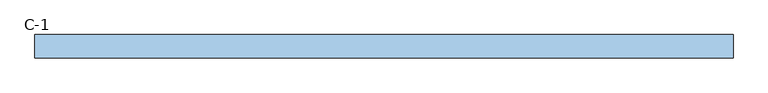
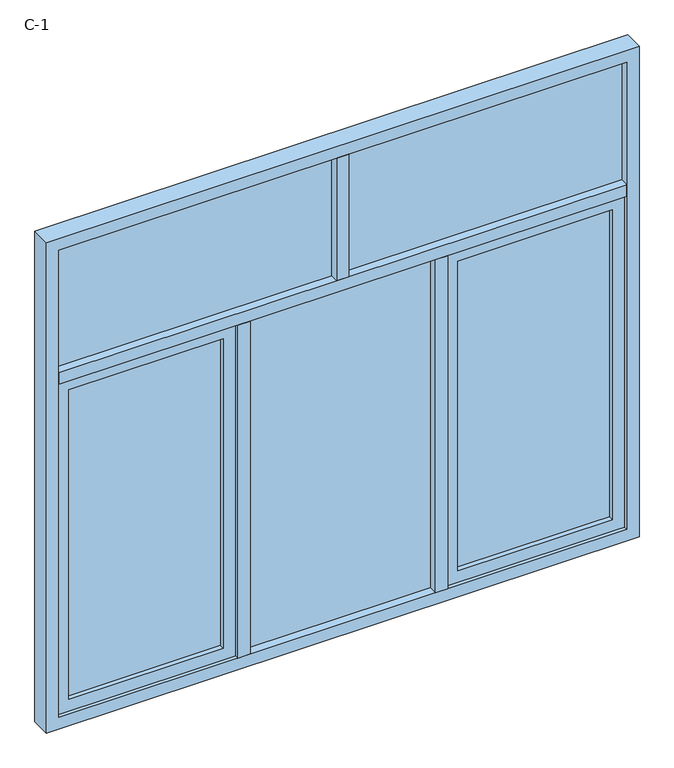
"""IFC4 building model written with IfcOpenShell, lengths in millimetres: window geometry, 组合窗 - 双层三列(平开+固定+平开) - 上部双扇 : C-1."""

from ifc_helpers import new_model, si_unit, frame, origin, place, context, project, spatial, polyline, outline, extrude, source, transform, mapped, element, save


def c_1_d84b719d(model_context):
    return source(origin(), model_context, "Body", "SweptSolid", [
        extrude(outline(polyline([(-25.0, 10.0), (-1150.0, 10.0), (-1150.0, 20.0), (-25.0, 20.0), (-25.0, 10.0)])), frame((0.0, 0.0, 2425.0), z_axis=(0.0, 0.0, 1.0), x_axis=(1.0, 0.0, 0.0)), (0.0, 0.0, 1.0), 525.0),
        extrude(outline(polyline([(375.0, 10.0), (-375.0, 10.0), (-375.0, 20.0), (375.0, 20.0), (375.0, 10.0)])), frame((0.0, 0.0, 950.0), z_axis=(0.0, 0.0, 1.0), x_axis=(1.0, 0.0, 0.0)), (0.0, 0.0, 1.0), 1425.0),
        extrude(outline(polyline([(1150.0, 10.0), (25.0, 10.0), (25.0, 20.0), (1150.0, 20.0), (1150.0, 10.0)])), frame((0.0, 0.0, 2425.0), z_axis=(0.0, 0.0, 1.0), x_axis=(1.0, 0.0, 0.0)), (0.0, 0.0, 1.0), 525.0),
        extrude(outline(polyline([(-475.0, 10.0), (-1100.0, 10.0), (-1100.0, 20.0), (-475.0, 20.0), (-475.0, 10.0)])), frame((0.0, 0.0, 1000.0), z_axis=(0.0, 0.0, 1.0), x_axis=(1.0, 0.0, 0.0)), (0.0, 0.0, 1.0), 1325.0),
        extrude(outline(polyline([(2375.0, -425.0), (2375.0, -1150.0), (950.0, -1150.0), (950.0, -425.0), (2375.0, -425.0)]), holes=[polyline([(1000.0, -475.0), (1000.0, -1100.0), (2325.0, -1100.0), (2325.0, -475.0), (1000.0, -475.0)])]), frame((0.0, -10.0, 0.0), z_axis=(0.0, 1.0, 0.0), x_axis=(0.0, 0.0, 1.0)), (0.0, 0.0, 1.0), 50.0),
        extrude(outline(polyline([(1100.0, 10.0), (475.0, 10.0), (475.0, 20.0), (1100.0, 20.0), (1100.0, 10.0)])), frame((0.0, 0.0, 1000.0), z_axis=(0.0, 0.0, 1.0), x_axis=(1.0, 0.0, 0.0)), (0.0, 0.0, 1.0), 1325.0),
        extrude(outline(polyline([(2375.0, 1150.0), (2375.0, 425.0), (950.0, 425.0), (950.0, 1150.0), (2375.0, 1150.0)]), holes=[polyline([(1000.0, 1100.0), (1000.0, 475.0), (2325.0, 475.0), (2325.0, 1100.0), (1000.0, 1100.0)])]), frame((0.0, -10.0, 0.0), z_axis=(0.0, 1.0, 0.0), x_axis=(0.0, 0.0, 1.0)), (0.0, 0.0, 1.0), 50.0),
        extrude(outline(polyline([(-25.0, 55.0), (25.0, 55.0), (25.0, -25.0), (-25.0, -25.0), (-25.0, 55.0)])), frame((0.0, 0.0, 2425.0), z_axis=(0.0, 0.0, 1.0), x_axis=(1.0, 0.0, 0.0)), (0.0, 0.0, 1.0), 525.0),
        extrude(outline(polyline([(375.0, 55.0), (425.0, 55.0), (425.0, -25.0), (375.0, -25.0), (375.0, 55.0)])), frame((0.0, 0.0, 950.0), z_axis=(0.0, 0.0, 1.0), x_axis=(1.0, 0.0, 0.0)), (0.0, 0.0, 1.0), 1425.0),
        extrude(outline(polyline([(-425.0, 55.0), (-375.0, 55.0), (-375.0, -25.0), (-425.0, -25.0), (-425.0, 55.0)])), frame((0.0, 0.0, 950.0), z_axis=(0.0, 0.0, 1.0), x_axis=(1.0, 0.0, 0.0)), (0.0, 0.0, 1.0), 1425.0),
        extrude(outline(polyline([(-1150.0, 55.0), (1150.0, 55.0), (1150.0, -25.0), (-1150.0, -25.0), (-1150.0, 55.0)])), frame((0.0, 0.0, 2375.0), z_axis=(0.0, 0.0, 1.0), x_axis=(1.0, 0.0, 0.0)), (0.0, 0.0, 1.0), 50.0),
        extrude(outline(polyline([(3000.0, -1200.0), (900.0, -1200.0), (900.0, 1200.0), (3000.0, 1200.0), (3000.0, -1200.0)]), holes=[polyline([(2950.0, 1150.0), (950.0, 1150.0), (950.0, -1150.0), (2950.0, -1150.0), (2950.0, 1150.0)])]), frame((0.0, -25.0, 0.0), z_axis=(0.0, 1.0, 0.0), x_axis=(0.0, 0.0, 1.0)), (0.0, 0.0, 1.0), 80.0),
    ])


if __name__ == "__main__":
    model = new_model("IFC4")
    model_context = context("Model", 3, world=origin())
    ifc_project = project(units=[si_unit("LENGTHUNIT", "METRE", prefix="MILLI")], contexts=[model_context])
    site = spatial("IfcSite", under=ifc_project)
    building = spatial("IfcBuilding", under=site)
    placement = place(None, origin())
    c_1_shape = c_1_d84b719d(model_context)
    element("IfcWindow", 1, ObjectType="组合窗 - 双层三列(平开+固定+平开) - 上部双扇 : C-1", at=placement, inside=building, context=model_context, shape_type="MappedRepresentation", body=[
        mapped(c_1_shape, transform((0.0, 0.0, 0.0), x_axis=(1.0, 0.0, 0.0), y_axis=(0.0, 1.0, 0.0), z_axis=(0.0, 0.0, 1.0))),
    ])
    save(model, "model.ifc")
